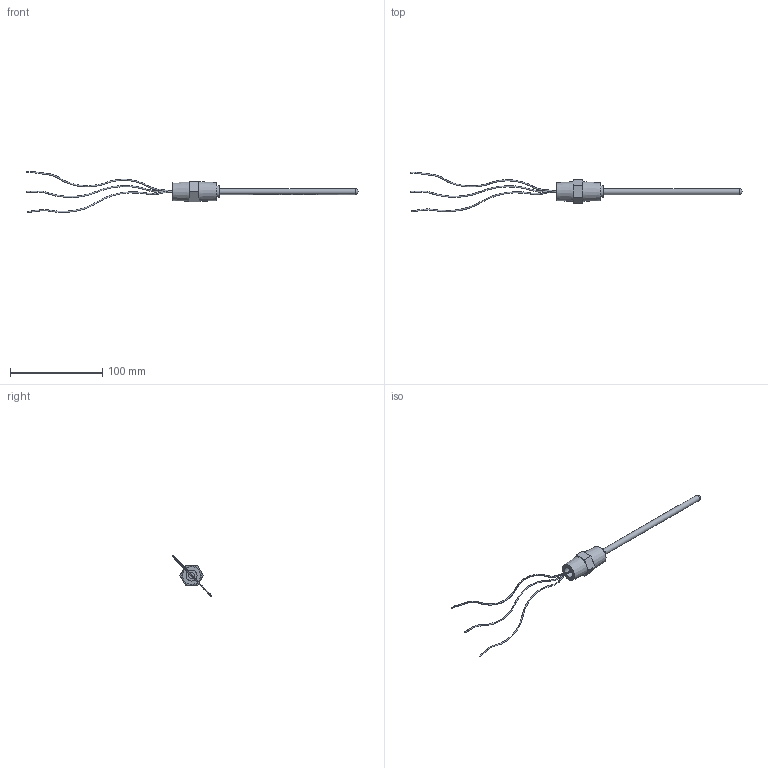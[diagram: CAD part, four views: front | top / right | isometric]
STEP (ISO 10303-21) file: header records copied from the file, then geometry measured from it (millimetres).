
FILE_DESCRIPTION(/* description */ (''),/* implementation_level */ '2;1');
FILE_NAME(/* name */ 'P:\3D Drawings\Thermocouples and RTDs\Stem Assemblies\Spring-Loaded-Bushing-RTD\Spring-Loaded-Bushing-RTD-STP.stp',/* time_stamp */ '2016-01-14T11:26:12-08:00',/* author */ ('charles'),/* organization */ (''),/* preprocessor_version */ 'ST-DEVELOPER v15.2',/* originating_system */ 'Autodesk Inventor 2014',/* authorisation */ '');
FILE_SCHEMA (('AUTOMOTIVE_DESIGN { 1 0 10303 214 3 1 1 }'));
Products named in the file (1): Spring-Loaded-Bushing-RTD
Bounding box: 360.33 x 43.1 x 44.74 mm (x, y, z)
Volume: 15204.3 mm3; surface area: 11728.6 mm2
Topology: 3 solids, 4 shells, 534 faces, 1411 edges, 935 vertices
Faces by surface type: plane 325, bspline 158, cylinder 36, torus 12, cone 2, sphere 1
Full cylindrical faces by diameter (mm): 0.776 x1, 0.904 x1, 1.068 x1, 1.27 x4, 6.35 x2, 11.789 x1, 12.7 x2, 17.272 x1, 19.05 x1
Entity records: 42191 total; most frequent: CARTESIAN_POINT 29822, ORIENTED_EDGE 2752, DIRECTION 1813, EDGE_CURVE 1375, VERTEX_POINT 929, LINE 825, VECTOR 825, EDGE_LOOP 618
